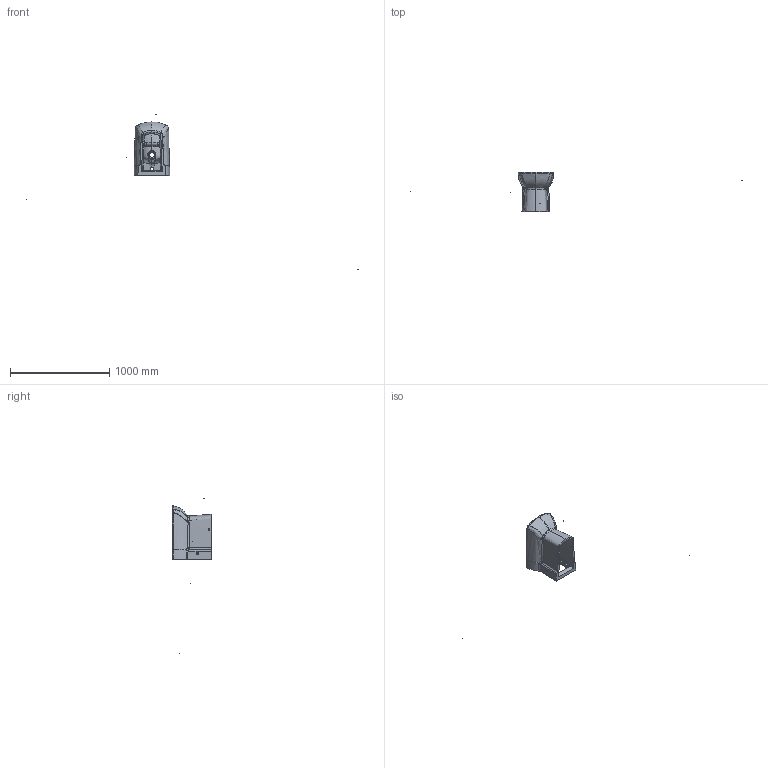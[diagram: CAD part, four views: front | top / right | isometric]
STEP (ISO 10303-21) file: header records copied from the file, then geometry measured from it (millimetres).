
FILE_DESCRIPTION (( 'STEP AP203' ), '1' );
FILE_NAME ('LR500-00CB00E-0000.STEP', '2022-04-14T10:20:38', ( '' ), ( '' ), 'SwSTEP 2.0', 'SolidWorks 2021', '' );
FILE_SCHEMA (( 'CONFIG_CONTROL_DESIGN' ));
Products named in the file (1): LR500-00CB00E-0000
Bounding box: 3342.89 x 392.89 x 1567.2 mm (x, y, z)
Volume: 11813269.8 mm3; surface area: 1652644.3 mm2
Topology: 30 solids, 30 shells, 759 faces, 1931 edges, 1228 vertices
Faces by surface type: bspline 338, cylinder 267, plane 80, sphere 38, torus 28, cone 8
Entity records: 367055 total; most frequent: CARTESIAN_POINT 351990, ORIENTED_EDGE 3806, DIRECTION 1991, EDGE_CURVE 1903, VERTEX_POINT 1222, B_SPLINE_CURVE_WITH_KNOTS 1152, AXIS2_PLACEMENT_3D 820, EDGE_LOOP 795
